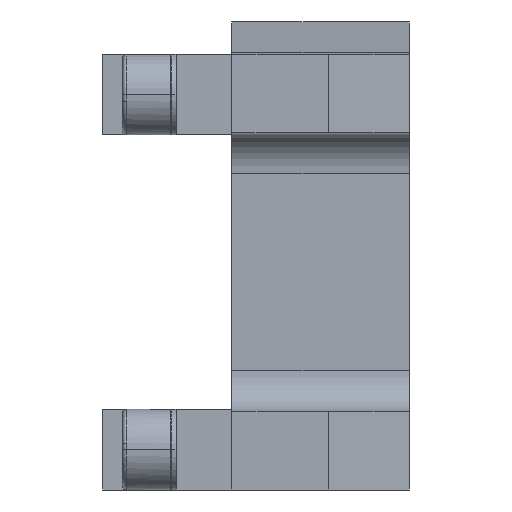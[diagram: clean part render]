
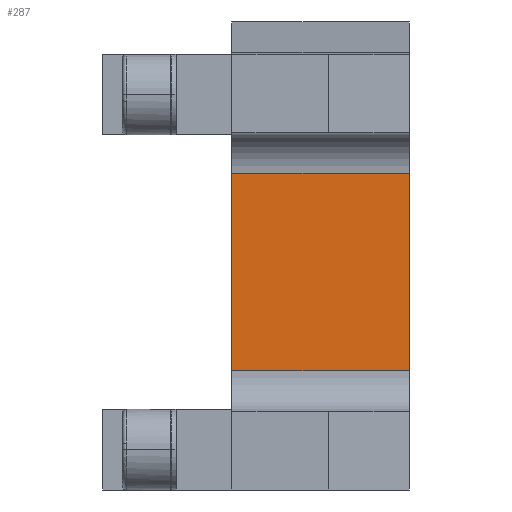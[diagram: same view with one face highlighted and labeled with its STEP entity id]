
A CAD part, front view. The second image highlights one B-rep face of the part: STEP entity #287.
In plain terms, the highlighted planar face has unit normal (0, -1, 0).
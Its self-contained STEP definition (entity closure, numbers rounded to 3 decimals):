
#235=CARTESIAN_POINT('Vertex',(22.,74.,-12.25)) ;
#238=CARTESIAN_POINT('Line Origine',(18.5,74.,-12.25)) ;
#242=CARTESIAN_POINT('Vertex',(0.,74.,-12.25)) ;
#257=CARTESIAN_POINT('Axis2P3D Location',(0.,74.,12.25)) ;
#262=CARTESIAN_POINT('Line Origine',(11.,74.,12.25)) ;
#266=CARTESIAN_POINT('Vertex',(0.,74.,12.25)) ;
#268=CARTESIAN_POINT('Vertex',(22.,74.,12.25)) ;
#271=CARTESIAN_POINT('Line Origine',(0.,74.,0.)) ;
#276=CARTESIAN_POINT('Line Origine',(22.,74.,0.)) ;
#239=DIRECTION('Vector Direction',(-1.,0.,0.)) ;
#258=DIRECTION('Axis2P3D Direction',(0.,-1.,0.)) ;
#259=DIRECTION('Axis2P3D XDirection',(0.,-0.,-1.)) ;
#263=DIRECTION('Vector Direction',(1.,0.,0.)) ;
#272=DIRECTION('Vector Direction',(0.,0.,-1.)) ;
#277=DIRECTION('Vector Direction',(0.,0.,-1.)) ;
#260=AXIS2_PLACEMENT_3D('Plane Axis2P3D',#257,#258,#259) ;
#282=ORIENTED_EDGE('',*,*,#270,.F.) ;
#283=ORIENTED_EDGE('',*,*,#275,.T.) ;
#284=ORIENTED_EDGE('',*,*,#244,.T.) ;
#285=ORIENTED_EDGE('',*,*,#280,.F.) ;
#240=VECTOR('Line Direction',#239,1.) ;
#264=VECTOR('Line Direction',#263,1.) ;
#273=VECTOR('Line Direction',#272,1.) ;
#278=VECTOR('Line Direction',#277,1.) ;
#287=ADVANCED_FACE('Brep With Voids',(#286),#261,.T.) ;
#244=EDGE_CURVE('',#243,#236,#241,.F.) ;
#270=EDGE_CURVE('',#267,#269,#265,.T.) ;
#275=EDGE_CURVE('',#267,#243,#274,.T.) ;
#280=EDGE_CURVE('',#269,#236,#279,.T.) ;
#281=EDGE_LOOP('',(#282,#283,#284,#285)) ;
#286=FACE_OUTER_BOUND('',#281,.T.) ;
#241=LINE('Line',#238,#240) ;
#265=LINE('Line',#262,#264) ;
#274=LINE('Line',#271,#273) ;
#279=LINE('Line',#276,#278) ;
#261=PLANE('Plane',#260) ;
#236=VERTEX_POINT('',#235) ;
#243=VERTEX_POINT('',#242) ;
#267=VERTEX_POINT('',#266) ;
#269=VERTEX_POINT('',#268) ;
